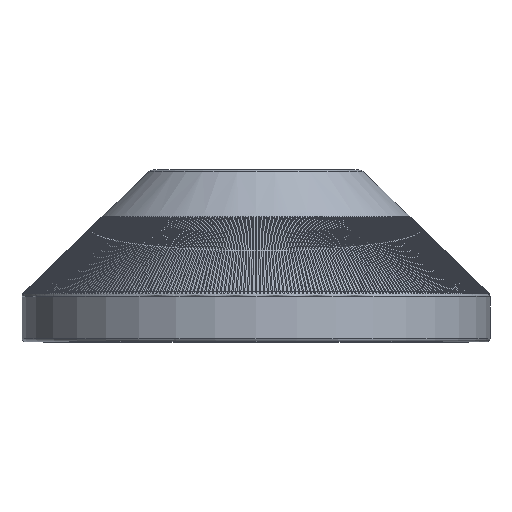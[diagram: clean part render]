
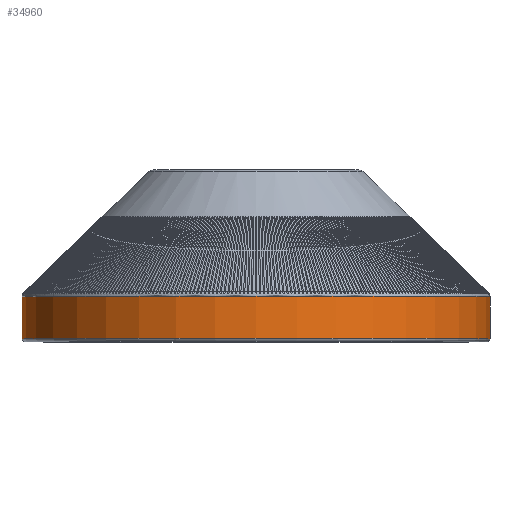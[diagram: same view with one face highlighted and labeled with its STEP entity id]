
A CAD part, top view. The second image highlights one B-rep face of the part: STEP entity #34960.
In plain terms, the highlighted cylindrical face has radius 7.35 mm (diameter 14.7 mm), a full revolution.
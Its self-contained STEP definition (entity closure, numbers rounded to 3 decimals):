
#4253=FACE_OUTER_BOUND('',#6197,.T.);
#6197=EDGE_LOOP('',(#32558,#32559,#32560,#32561));
#6409=CIRCLE('',#35192,7.35);
#8077=CIRCLE('',#37266,7.35);
#11268=LINE('',#145322,#11382);
#11382=VECTOR('',#41970,7.35);
#11985=VERTEX_POINT('',#48068);
#15244=VERTEX_POINT('',#145316);
#15857=EDGE_CURVE('',#11985,#11985,#6409,.T.);
#21036=EDGE_CURVE('',#15244,#15244,#8077,.T.);
#21039=EDGE_CURVE('',#11985,#15244,#11268,.T.);
#32558=ORIENTED_EDGE('',*,*,#15857,.F.);
#32559=ORIENTED_EDGE('',*,*,#21039,.T.);
#32560=ORIENTED_EDGE('',*,*,#21036,.F.);
#32561=ORIENTED_EDGE('',*,*,#21039,.F.);
#33023=CYLINDRICAL_SURFACE('',#37269,7.35);
#34960=ADVANCED_FACE('',(#4253),#33023,.T.);
#35192=AXIS2_PLACEMENT_3D('',#48070,#37713,#37714);
#37266=AXIS2_PLACEMENT_3D('',#145317,#41962,#41963);
#37269=AXIS2_PLACEMENT_3D('',#145321,#41968,#41969);
#37713=DIRECTION('center_axis',(0.,1.,0.));
#37714=DIRECTION('ref_axis',(0.,0.,
-1.));
#41962=DIRECTION('center_axis',(0.,-1.,0.));
#41963=DIRECTION('ref_axis',(0.,0.,
-1.));
#41968=DIRECTION('center_axis',(0.,1.,0.));
#41969=DIRECTION('ref_axis',(0.,0.,1.));
#41970=DIRECTION('',(0.,-1.,0.));
#48068=CARTESIAN_POINT('',(0.,1.415,-7.35));
#48070=CARTESIAN_POINT('Origin',(0.,1.415,0.));
#145316=CARTESIAN_POINT('',(0.,0.1,-7.35));
#145317=CARTESIAN_POINT('Origin',(0.,0.1,0.));
#145321=CARTESIAN_POINT('Origin',(0.,0.75,0.));
#145322=CARTESIAN_POINT('',(0.,0.75,-7.35));
